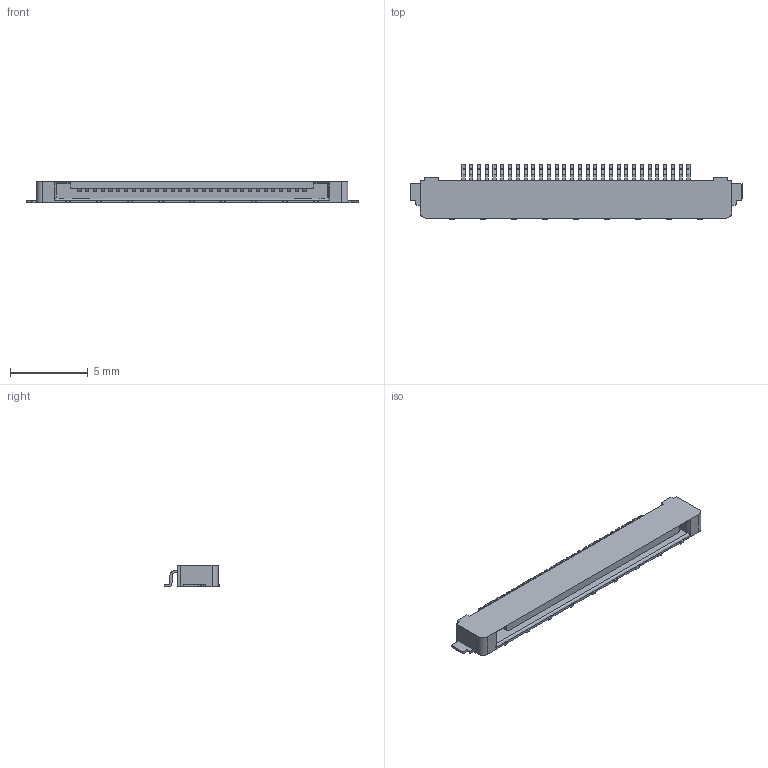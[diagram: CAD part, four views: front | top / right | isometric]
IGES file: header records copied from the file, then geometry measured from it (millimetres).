
Start section: Elysium IGES Interface
Global section: file name: C:\Users\1088\Desktop\SSLxx-xxL3\SSL00-30L3_IG.igs; native system: Creo Elements/Direct Modeling 19.0F  14-Feb-2017; preprocessor: Creo Element/Direct IGES_3D V2.2; author: Unknown; organization: Unknown; date: 20170804.141418; units: millimetre
Bounding box: 21.4 x 3.58 x 1.4 mm (x, y, z)
Volume: 53.1 mm3; surface area: 277 mm2
Topology: 1 solids, 1 shells, 735 faces, 2194 edges, 1462 vertices
Faces by surface type: bspline 735
